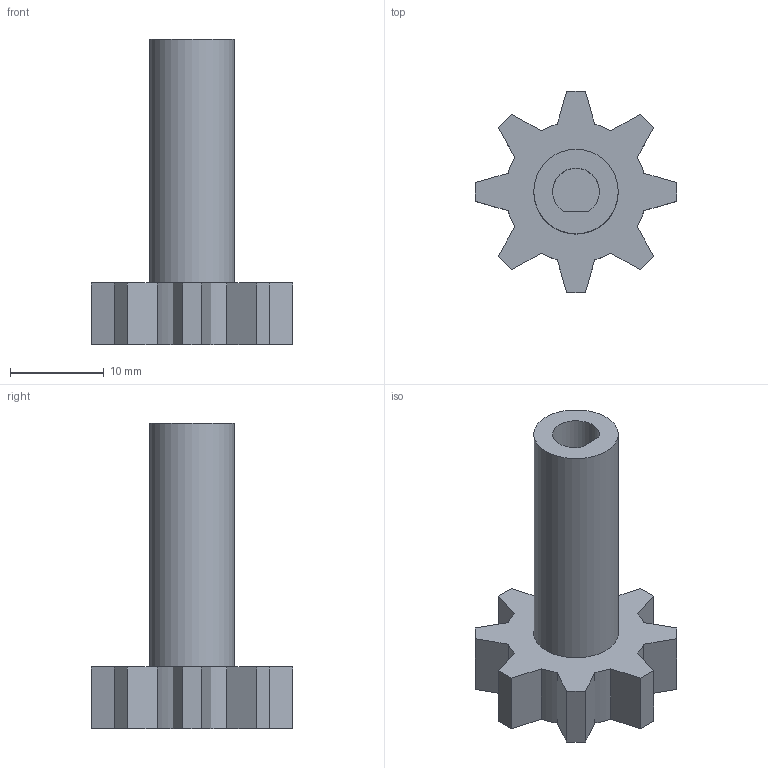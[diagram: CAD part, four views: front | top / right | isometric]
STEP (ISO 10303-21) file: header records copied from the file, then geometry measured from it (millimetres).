
FILE_DESCRIPTION(/* description */ ('STEP AP242 Edition 2','CAx-IF Rec.Pracs.---Representation and Presentation of Product Manufacturing Information (PMI)---4.0---2014-10-13','CAx-IF Rec.Pracs.---3D Tessellated Geometry---0.4---2014-09-14','2;1','CAx-IF Rec.Pracs.---User Defined Attributes---1.5---2016-08-15'),/* implementation_level */ '2;1');
FILE_NAME(/* name */ 'Y-Axis Gear',/* time_stamp */ '2025-11-29T19:54:07Z',/* author */ (''),/* organization */ (''),/* preprocessor_version */ 'ST-DEVELOPER v20',/* originating_system */ 'ONSHAPE BY PTC INC, 1.207',/* authorisation */ ' ');
FILE_SCHEMA (('AP242_MANAGED_MODEL_BASED_3D_ENGINEERING_MIM_LF { 1 0 10303 442 3 1 4 }'));
Length unit declared in the file: metre
Products named in the file (1): Part 1
Bounding box: 21.46 x 21.46 x 32.6 mm (x, y, z)
Volume: 2844.9 mm3; surface area: 2236.6 mm2
Topology: 1 solids, 1 shells, 39 faces, 105 edges, 70 vertices
Faces by surface type: plane 29, cylinder 10
Full cylindrical faces by diameter (mm): 9 x1
Entity records: 1236 total; most frequent: CARTESIAN_POINT 214, ORIENTED_EDGE 208, DIRECTION 204, EDGE_CURVE 104, LINE 84, VECTOR 84, VERTEX_POINT 70, AXIS2_PLACEMENT_3D 60
